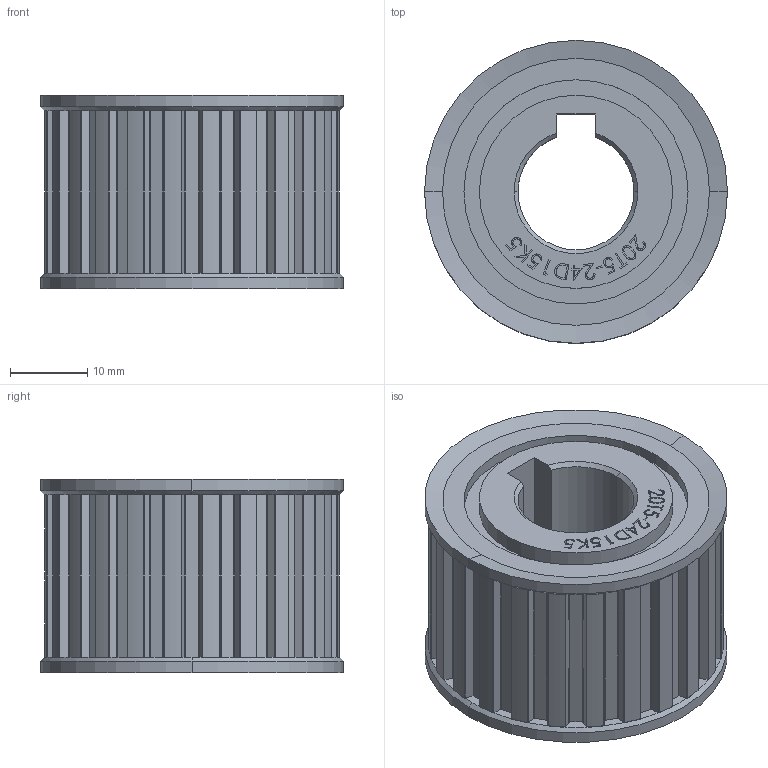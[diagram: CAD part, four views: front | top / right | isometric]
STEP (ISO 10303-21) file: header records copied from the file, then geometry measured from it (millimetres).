
FILE_DESCRIPTION (( 'STEP AP214' ), '1' );
FILE_NAME ('3.2053 Hammashihnapyörä 20T5-24D15K5.STEP', '2026-02-06T13:58:30', ( '' ), ( '' ), 'SwSTEP 2.0', 'SolidWorks 2025', '' );
FILE_SCHEMA (( 'AUTOMOTIVE_DESIGN' ));
Length unit declared in the file: millimetre
Products named in the file (1): 3.2053 Hammashihnapyörä 20T5-24D15K5
Bounding box: 39.2 x 39.2 x 25 mm (x, y, z)
Volume: 21527.8 mm3; surface area: 8118.9 mm2
Topology: 1 solids, 1 shells, 526 faces, 1409 edges, 903 vertices
Faces by surface type: plane 274, cylinder 181, bspline 57, cone 14
Entity records: 23124 total; most frequent: CARTESIAN_POINT 10082, ORIENTED_EDGE 2818, DIRECTION 2673, EDGE_CURVE 1409, AXIS2_PLACEMENT_3D 983, VERTEX_POINT 903, LINE 707, VECTOR 707
